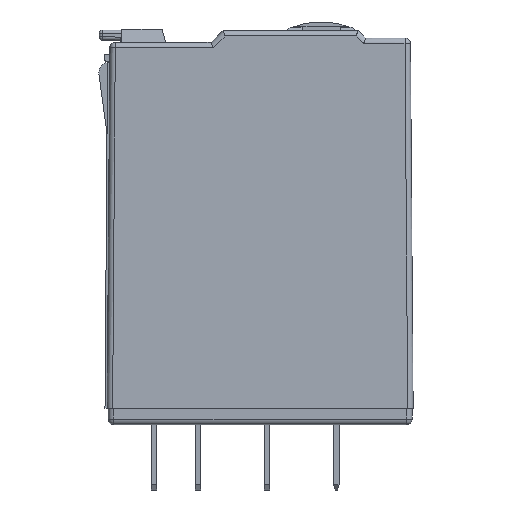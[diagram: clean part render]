
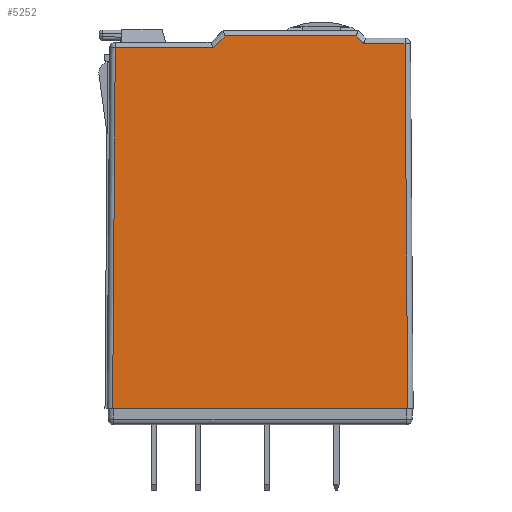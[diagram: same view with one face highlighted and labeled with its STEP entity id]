
A CAD part, left-side view. The second image highlights one B-rep face of the part: STEP entity #5252.
In plain terms, the highlighted planar face has unit normal (-1, 0, 0.007).
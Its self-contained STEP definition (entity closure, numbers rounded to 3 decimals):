
#628 = LINE ( 'NONE', #9464, #7117 ) ;
#937 = CARTESIAN_POINT ( 'NONE',  ( 0.232, 2.648, 39.102 ) ) ;
#1070 = CARTESIAN_POINT ( 'NONE',  ( 0.313, 8.854, 50.104 ) ) ;
#1283 = CARTESIAN_POINT ( 'NONE',  ( 0.251, 17.254, 41.704 ) ) ;
#2038 = CARTESIAN_POINT ( 'NONE',  ( 0.251, 5.251, 41.704 ) ) ;
#2069 = PLANE ( 'NONE',  #28360 ) ;
#3045 = EDGE_CURVE ( 'NONE', #16599, #22490, #21344, .T. ) ;
#3488 = DIRECTION ( 'NONE',  ( 0.007, 0.007, 1. ) ) ;
#4146 = DIRECTION ( 'NONE',  ( -0.005, 0.707, -0.707 ) ) ;
#4987 = ORIENTED_EDGE ( 'NONE', *, *, #15990, .T. ) ;
#5208 = CARTESIAN_POINT ( 'NONE',  ( 0.246, 0.25, 41.004 ) ) ;
#5252 = ADVANCED_FACE ( 'NONE', ( #19600 ), #2069, .F. ) ;
#5618 = ORIENTED_EDGE ( 'NONE', *, *, #3045, .T. ) ;
#5828 = CARTESIAN_POINT ( 'NONE',  ( 0.246, 4.551, 41.004 ) ) ;
#6407 = LINE ( 'NONE', #35811, #34311 ) ;
#6613 = CARTESIAN_POINT ( 'NONE',  ( 0.243, 18.354, 40.604 ) ) ;
#7053 = LINE ( 'NONE', #31277, #11465 ) ;
#7081 = DIRECTION ( 'NONE',  ( 0.005, 0.707, 0.707 ) ) ;
#7117 = VECTOR ( 'NONE', #3488, 1000. ) ;
#7178 = ORIENTED_EDGE ( 'NONE', *, *, #32494, .T. ) ;
#7491 = B_SPLINE_CURVE_WITH_KNOTS ( 'NONE', 3,
 ( #14838, #36296, #33204, #36502 ),
 .UNSPECIFIED., .F., .F.,
 ( 4, 4 ),
 ( 0.018, 0.982 ),
 .UNSPECIFIED. ) ;
#9464 = CARTESIAN_POINT ( 'NONE',  ( 0.25, 0.75, 41.496 ) ) ;
#10968 = VECTOR ( 'NONE', #34972, 1000. ) ;
#11381 = VERTEX_POINT ( 'NONE', #22488 ) ;
#11399 = LINE ( 'NONE', #5208, #10968 ) ;
#11465 = VECTOR ( 'NONE', #30922, 1000. ) ;
#13030 = VERTEX_POINT ( 'NONE', #6613 ) ;
#13760 = CARTESIAN_POINT ( 'NONE',  ( 0., 27.6, 7.5 ) ) ;
#14490 = EDGE_CURVE ( 'NONE', #33352, #32781, #7053, .T. ) ;
#14618 = EDGE_LOOP ( 'NONE', ( #15303, #26545, #7178, #15692, #4987, #5618, #27810, #24114 ) ) ;
#14838 = CARTESIAN_POINT ( 'NONE',  ( 0., 27.6, 7.5 ) ) ;
#15173 = CARTESIAN_POINT ( 'NONE',  ( 0.243, 27.357, 40.604 ) ) ;
#15303 = ORIENTED_EDGE ( 'NONE', *, *, #16673, .T. ) ;
#15435 = LINE ( 'NONE', #18895, #22287 ) ;
#15692 = ORIENTED_EDGE ( 'NONE', *, *, #27187, .T. ) ;
#15990 = EDGE_CURVE ( 'NONE', #16561, #16599, #11399, .T. ) ;
#16344 = CARTESIAN_POINT ( 'NONE',  ( 0.25, 0.25, 41.5 ) ) ;
#16561 = VERTEX_POINT ( 'NONE', #31630 ) ;
#16599 = VERTEX_POINT ( 'NONE', #5828 ) ;
#16673 = EDGE_CURVE ( 'NONE', #13030, #33352, #6407, .T. ) ;
#18362 = VECTOR ( 'NONE', #7081, 1000. ) ;
#18895 = CARTESIAN_POINT ( 'NONE',  ( 0.251, 17.461, 41.704 ) ) ;
#18957 = EDGE_CURVE ( 'NONE', #22490, #25194, #15435, .T. ) ;
#19600 = FACE_OUTER_BOUND ( 'NONE', #14618, .T. ) ;
#21344 = LINE ( 'NONE', #937, #18362 ) ;
#22287 = VECTOR ( 'NONE', #36371, 1000. ) ;
#22488 = CARTESIAN_POINT ( 'NONE',  ( 0., 0.5, 7.5 ) ) ;
#22490 = VERTEX_POINT ( 'NONE', #2038 ) ;
#23790 = EDGE_CURVE ( 'NONE', #25194, #13030, #33155, .T. ) ;
#24114 = ORIENTED_EDGE ( 'NONE', *, *, #23790, .T. ) ;
#24115 = VECTOR ( 'NONE', #4146, 1000. ) ;
#24688 = DIRECTION ( 'NONE',  ( 0., 1., 0. ) ) ;
#24807 = DIRECTION ( 'NONE',  ( -0.007, 0., -1. ) ) ;
#25194 = VERTEX_POINT ( 'NONE', #1283 ) ;
#26545 = ORIENTED_EDGE ( 'NONE', *, *, #14490, .T. ) ;
#27187 = EDGE_CURVE ( 'NONE', #11381, #16561, #628, .T. ) ;
#27810 = ORIENTED_EDGE ( 'NONE', *, *, #18957, .T. ) ;
#28360 = AXIS2_PLACEMENT_3D ( 'NONE', #16344, #33580, #24807 ) ;
#30922 = DIRECTION ( 'NONE',  ( -0.007, 0.007, -1. ) ) ;
#31277 = CARTESIAN_POINT ( 'NONE',  ( 0.251, 27.349, 41.699 ) ) ;
#31630 = CARTESIAN_POINT ( 'NONE',  ( 0.246, 0.746, 41.004 ) ) ;
#32494 = EDGE_CURVE ( 'NONE', #32781, #11381, #7491, .T. ) ;
#32781 = VERTEX_POINT ( 'NONE', #13760 ) ;
#33155 = LINE ( 'NONE', #1070, #24115 ) ;
#33204 = CARTESIAN_POINT ( 'NONE',  ( 0., 9.533, 7.5 ) ) ;
#33352 = VERTEX_POINT ( 'NONE', #15173 ) ;
#33580 = DIRECTION ( 'NONE',  ( 1., 0., -0.007 ) ) ;
#34311 = VECTOR ( 'NONE', #24688, 1000. ) ;
#34972 = DIRECTION ( 'NONE',  ( 0., 1., 0. ) ) ;
#35811 = CARTESIAN_POINT ( 'NONE',  ( 0.243, 0.25, 40.604 ) ) ;
#36296 = CARTESIAN_POINT ( 'NONE',  ( 0., 18.567, 7.5 ) ) ;
#36371 = DIRECTION ( 'NONE',  ( 0., 1., 0. ) ) ;
#36502 = CARTESIAN_POINT ( 'NONE',  ( 0., 0.5, 7.5 ) ) ;
